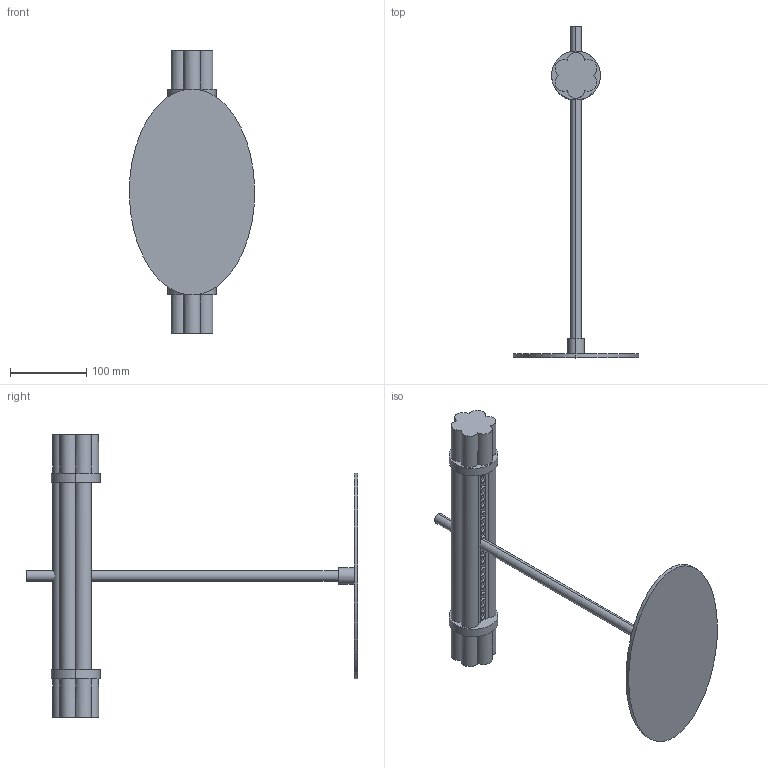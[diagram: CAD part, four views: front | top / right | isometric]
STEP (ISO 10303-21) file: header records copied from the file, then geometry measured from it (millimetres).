
FILE_DESCRIPTION (( 'STEP AP214' ), '1' );
FILE_NAME ('TASTA Sobremesa.STEP', '2025-12-12T11:43:46', ( '' ), ( '' ), 'SwSTEP 2.0', 'SolidWorks 2023', '' );
FILE_SCHEMA (( 'AUTOMOTIVE_DESIGN' ));
Length unit declared in the file: millimetre
Products named in the file (2): TASTA Sobremesa; TASTA sobremesa
Assembly tree (1 placements, depth 2):
  TASTA Sobremesa
    TASTA sobremesa
Bounding box: 164.32 x 435 x 370 mm (x, y, z)
Surface area: 200760.7 mm2 (no closed solid volume)
Topology: 0 solids, 8 shells, 185 faces, 407 edges, 238 vertices
Faces by surface type: plane 152, cylinder 31, bspline 2
Entity records: 6428 total; most frequent: CARTESIAN_POINT 3167, ORIENTED_EDGE 756, EDGE_CURVE 407, DIRECTION 396, B_SPLINE_CURVE_WITH_KNOTS 389, VERTEX_POINT 238, AXIS2_PLACEMENT_3D 195, EDGE_LOOP 186
